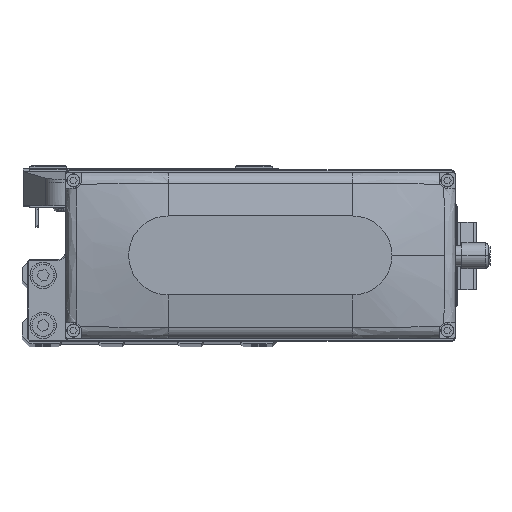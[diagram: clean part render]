
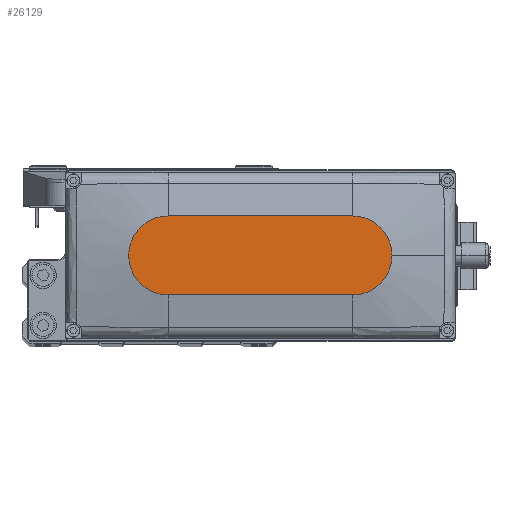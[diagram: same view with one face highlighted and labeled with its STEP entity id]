
A CAD part, top view. The second image highlights one B-rep face of the part: STEP entity #26129.
In plain terms, the highlighted planar face has unit normal (0, 0, 1).
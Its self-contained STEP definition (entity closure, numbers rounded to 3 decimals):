
#682 = CARTESIAN_POINT ( 'NONE',  ( 50., 0., 35. ) ) ;
#1984 = DIRECTION ( 'NONE',  ( -1., 0., 0. ) ) ;
#2258 = ORIENTED_EDGE ( 'NONE', *, *, #11224, .T. ) ;
#2612 = CARTESIAN_POINT ( 'NONE',  ( 35., 15., 35. ) ) ;
#2920 = EDGE_CURVE ( 'NONE', #40330, #3661, #44123, .T. ) ;
#3073 = CIRCLE ( 'NONE', #28821, 15. ) ;
#3535 = CARTESIAN_POINT ( 'NONE',  ( 35., 0., 35. ) ) ;
#3661 = VERTEX_POINT ( 'NONE', #22536 ) ;
#4721 = EDGE_LOOP ( 'NONE', ( #2258, #12214, #13183, #12447, #35539 ) ) ;
#5219 = DIRECTION ( 'NONE',  ( 0., 0., 1. ) ) ;
#6032 = DIRECTION ( 'NONE',  ( 1., 0., 0. ) ) ;
#7515 = VERTEX_POINT ( 'NONE', #2612 ) ;
#9305 = AXIS2_PLACEMENT_3D ( 'NONE', #23539, #37579, #6032 ) ;
#11224 = EDGE_CURVE ( 'NONE', #7515, #36571, #19479, .T. ) ;
#11336 = CARTESIAN_POINT ( 'NONE',  ( 0., 0., 35. ) ) ;
#12214 = ORIENTED_EDGE ( 'NONE', *, *, #34814, .T. ) ;
#12447 = ORIENTED_EDGE ( 'NONE', *, *, #42928, .T. ) ;
#12542 = CARTESIAN_POINT ( 'NONE',  ( -35., -15., 35. ) ) ;
#13183 = ORIENTED_EDGE ( 'NONE', *, *, #2920, .T. ) ;
#15259 = AXIS2_PLACEMENT_3D ( 'NONE', #11336, #25403, #39441 ) ;
#17427 = CARTESIAN_POINT ( 'NONE',  ( -35., 15., 35. ) ) ;
#17580 = DIRECTION ( 'NONE',  ( 0., 0., 1. ) ) ;
#18003 = CIRCLE ( 'NONE', #43761, 15. ) ;
#19270 = DIRECTION ( 'NONE',  ( 1., 0., 0. ) ) ;
#19479 = LINE ( 'NONE', #33536, #37312 ) ;
#22455 = VERTEX_POINT ( 'NONE', #682 ) ;
#22536 = CARTESIAN_POINT ( 'NONE',  ( 35., -15., 35. ) ) ;
#23289 = CIRCLE ( 'NONE', #9305, 15. ) ;
#23539 = CARTESIAN_POINT ( 'NONE',  ( -35., 0., 35. ) ) ;
#24206 = VECTOR ( 'NONE', #26599, 1000. ) ;
#25403 = DIRECTION ( 'NONE',  ( 0., 0., 1. ) ) ;
#26129 = ADVANCED_FACE ( 'NONE', ( #28849 ), #42909, .T. ) ;
#26599 = DIRECTION ( 'NONE',  ( 1., 0., 0. ) ) ;
#28712 = EDGE_CURVE ( 'NONE', #22455, #7515, #3073, .T. ) ;
#28821 = AXIS2_PLACEMENT_3D ( 'NONE', #36781, #5219, #19270 ) ;
#28849 = FACE_OUTER_BOUND ( 'NONE', #4721, .T. ) ;
#31632 = DIRECTION ( 'NONE',  ( 1., 0., 0. ) ) ;
#33536 = CARTESIAN_POINT ( 'NONE',  ( -35., 15., 35. ) ) ;
#34814 = EDGE_CURVE ( 'NONE', #36571, #40330, #23289, .T. ) ;
#35539 = ORIENTED_EDGE ( 'NONE', *, *, #28712, .T. ) ;
#36571 = VERTEX_POINT ( 'NONE', #17427 ) ;
#36781 = CARTESIAN_POINT ( 'NONE',  ( 35., 0., 35. ) ) ;
#37312 = VECTOR ( 'NONE', #1984, 1000. ) ;
#37579 = DIRECTION ( 'NONE',  ( 0., 0., 1. ) ) ;
#39441 = DIRECTION ( 'NONE',  ( 1., 0., 0. ) ) ;
#40330 = VERTEX_POINT ( 'NONE', #42396 ) ;
#42396 = CARTESIAN_POINT ( 'NONE',  ( -35., -15., 35. ) ) ;
#42909 = PLANE ( 'NONE',  #15259 ) ;
#42928 = EDGE_CURVE ( 'NONE', #3661, #22455, #18003, .T. ) ;
#43761 = AXIS2_PLACEMENT_3D ( 'NONE', #3535, #17580, #31632 ) ;
#44123 = LINE ( 'NONE', #12542, #24206 ) ;
